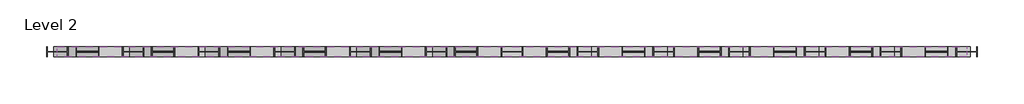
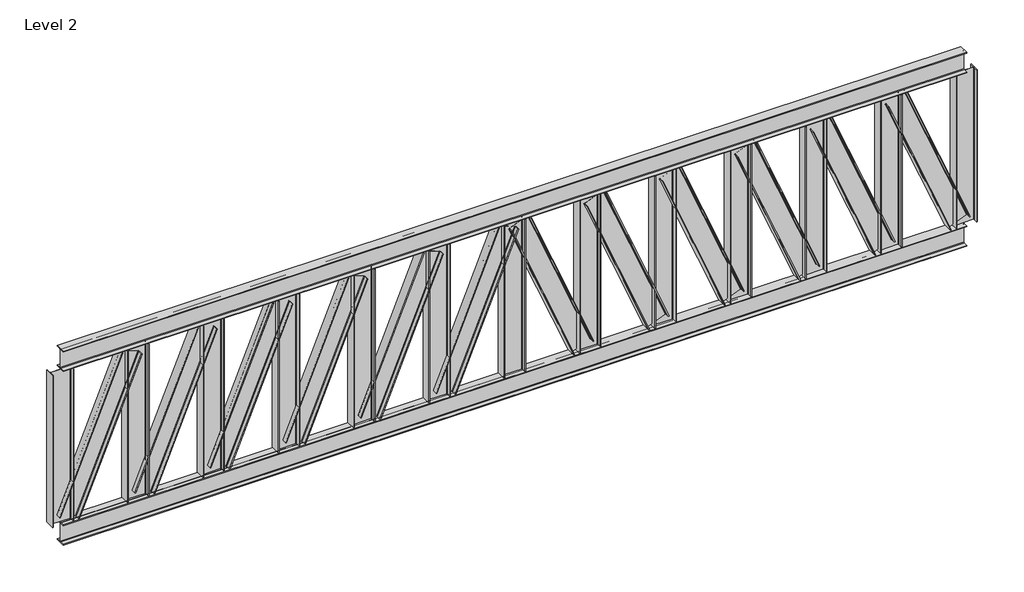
# One storey: 27 beams.
"""IFC4 building model written with IfcOpenShell, lengths in millimetres."""

from ifc_helpers import new_model, si_unit, origin, place, context, project, spatial, transform, mapped, element, save
from components import ub_universal_beams_ub356x171x51_882d7a9f, ub_universal_beams_ub356x171x51_1120833c, ub_universal_beams_ub356x171x51_ab9f3c69

model = new_model("IFC4")

# Units and contexts
model_context = context("Model", 3, world=origin())
ifc_project = project(units=[si_unit("LENGTHUNIT", "METRE", prefix="MILLI")], contexts=[model_context])

# Site, building, storey
site = spatial("IfcSite", under=ifc_project)
building = spatial("IfcBuilding", under=site)
storey = spatial("IfcBuildingStorey", under=building, Name="Level 2", Elevation=3000.0)

# Beams
placement = place(None, origin())
ub_universal_beams_ub356x171x51_shape = ub_universal_beams_ub356x171x51_882d7a9f(model_context)
element("IfcBeam", 1, ObjectType="UB-Universal Beams : UB356x171x51", at=placement, inside=storey, context=model_context, shape_type="MappedRepresentation", body=[
    mapped(ub_universal_beams_ub356x171x51_shape, transform((-368.8561291, 106.2542074, 3000.0), x_axis=(-1.0, 0.0, 0.0), y_axis=(0.0, -1.0, 0.0), z_axis=(0.0, 0.0, 1.0))),
])
element("IfcBeam", 2, ObjectType="UB-Universal Beams : UB356x171x51", at=placement, inside=storey, context=model_context, shape_type="MappedRepresentation", body=[
    mapped(ub_universal_beams_ub356x171x51_shape, transform((-368.8561291, 106.2542074, 6048.0), x_axis=(-1.0, 0.0, 0.0), y_axis=(0.0, -1.0, 0.0), z_axis=(0.0, 0.0, 1.0))),
])
ub_universal_beams_ub356x171x51_2_shape = ub_universal_beams_ub356x171x51_1120833c(model_context)
element("IfcBeam", 3, ObjectType="UB-Universal Beams : UB356x171x51", at=placement, inside=storey, context=model_context, shape_type="MappedRepresentation", body=[
    mapped(ub_universal_beams_ub356x171x51_2_shape, transform((-6618.8561291, 106.2542074, 4524.0), x_axis=(0.0, 0.0, 1.0000000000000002), y_axis=(0.0, 1.0000000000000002, 0.0), z_axis=(-1.0000000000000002, 0.0, 0.0))),
])
element("IfcBeam", 4, ObjectType="UB-Universal Beams : UB356x171x51", at=placement, inside=storey, context=model_context, shape_type="MappedRepresentation", body=[
    mapped(ub_universal_beams_ub356x171x51_2_shape, transform((5881.1438709, 106.2542074, 4524.0), x_axis=(0.0, 0.0, 1.0000000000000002), y_axis=(0.0, 1.0000000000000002, 0.0), z_axis=(-1.0000000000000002, 0.0, 0.0))),
])
element("IfcBeam", 5, ObjectType="UB-Universal Beams : UB356x171x51", at=placement, inside=storey, context=model_context, shape_type="MappedRepresentation", body=[
    mapped(ub_universal_beams_ub356x171x51_2_shape, transform((-5368.8561291, 106.2542074, 4524.0), x_axis=(0.0, 0.0, 1.0000000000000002), y_axis=(0.0, 1.0000000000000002, 0.0), z_axis=(-1.0000000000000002, 0.0, 0.0))),
])
element("IfcBeam", 6, ObjectType="UB-Universal Beams : UB356x171x51", at=placement, inside=storey, context=model_context, shape_type="MappedRepresentation", body=[
    mapped(ub_universal_beams_ub356x171x51_2_shape, transform((4631.1438709, 106.2542074, 4524.0), x_axis=(0.0, 0.0, 1.0000000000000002), y_axis=(0.0, 1.0000000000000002, 0.0), z_axis=(-1.0000000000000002, 0.0, 0.0))),
])
element("IfcBeam", 7, ObjectType="UB-Universal Beams : UB356x171x51", at=placement, inside=storey, context=model_context, shape_type="MappedRepresentation", body=[
    mapped(ub_universal_beams_ub356x171x51_2_shape, transform((-4118.8561291, 106.2542074, 4524.0), x_axis=(0.0, 0.0, 1.0000000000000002), y_axis=(0.0, 1.0000000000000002, 0.0), z_axis=(-1.0000000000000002, 0.0, 0.0))),
])
element("IfcBeam", 8, ObjectType="UB-Universal Beams : UB356x171x51", at=placement, inside=storey, context=model_context, shape_type="MappedRepresentation", body=[
    mapped(ub_universal_beams_ub356x171x51_2_shape, transform((-2868.8561291, 106.2542074, 4524.0), x_axis=(0.0, 0.0, 1.0000000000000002), y_axis=(0.0, 1.0000000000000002, 0.0), z_axis=(-1.0000000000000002, 0.0, 0.0))),
])
element("IfcBeam", 9, ObjectType="UB-Universal Beams : UB356x171x51", at=placement, inside=storey, context=model_context, shape_type="MappedRepresentation", body=[
    mapped(ub_universal_beams_ub356x171x51_2_shape, transform((-7868.8561291, 106.2542074, 4524.0), x_axis=(0.0, 0.0, 1.0000000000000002), y_axis=(0.0, 1.0000000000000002, 0.0), z_axis=(-1.0000000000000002, 0.0, 0.0))),
])
element("IfcBeam", 10, ObjectType="UB-Universal Beams : UB356x171x51", at=placement, inside=storey, context=model_context, shape_type="MappedRepresentation", body=[
    mapped(ub_universal_beams_ub356x171x51_2_shape, transform((-1618.8561291, 106.2542074, 4524.0), x_axis=(0.0, 0.0, 1.0000000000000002), y_axis=(0.0, 1.0000000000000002, 0.0), z_axis=(-1.0000000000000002, 0.0, 0.0))),
])
element("IfcBeam", 11, ObjectType="UB-Universal Beams : UB356x171x51", at=placement, inside=storey, context=model_context, shape_type="MappedRepresentation", body=[
    mapped(ub_universal_beams_ub356x171x51_2_shape, transform((3381.1438709, 106.2542074, 4524.0), x_axis=(0.0, 0.0, 1.0000000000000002), y_axis=(0.0, 1.0000000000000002, 0.0), z_axis=(-1.0000000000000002, 0.0, 0.0))),
])
element("IfcBeam", 12, ObjectType="UB-Universal Beams : UB356x171x51", at=placement, inside=storey, context=model_context, shape_type="MappedRepresentation", body=[
    mapped(ub_universal_beams_ub356x171x51_2_shape, transform((2131.1438709, 106.2542074, 4524.0), x_axis=(0.0, 0.0, 1.0000000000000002), y_axis=(0.0, 1.0000000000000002, 0.0), z_axis=(-1.0000000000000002, 0.0, 0.0))),
])
element("IfcBeam", 13, ObjectType="UB-Universal Beams : UB356x171x51", at=placement, inside=storey, context=model_context, shape_type="MappedRepresentation", body=[
    mapped(ub_universal_beams_ub356x171x51_2_shape, transform((7131.1438709, 106.2542074, 4524.0), x_axis=(0.0, 0.0, 1.0000000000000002), y_axis=(0.0, 1.0000000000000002, 0.0), z_axis=(-1.0000000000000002, 0.0, 0.0))),
])
element("IfcBeam", 14, ObjectType="UB-Universal Beams : UB356x171x51", at=placement, inside=storey, context=model_context, shape_type="MappedRepresentation", body=[
    mapped(ub_universal_beams_ub356x171x51_2_shape, transform((881.1438709, 106.2542074, 4524.0), x_axis=(0.0, 0.0, 1.0000000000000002), y_axis=(0.0, 1.0000000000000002, 0.0), z_axis=(-1.0000000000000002, 0.0, 0.0))),
])
element("IfcBeam", 15, ObjectType="UB-Universal Beams : UB356x171x51", at=placement, inside=storey, context=model_context, shape_type="MappedRepresentation", body=[
    mapped(ub_universal_beams_ub356x171x51_2_shape, transform((-368.8561291, 106.2542074, 4524.0), x_axis=(0.0, 0.0, 1.0000000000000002), y_axis=(0.0, 1.0000000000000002, 0.0), z_axis=(-1.0000000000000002, 0.0, 0.0))),
])
ub_universal_beams_ub356x171x51_3_shape = ub_universal_beams_ub356x171x51_ab9f3c69(model_context)
element("IfcBeam", 16, ObjectType="UB-Universal Beams : UB356x171x51", at=placement, inside=storey, context=model_context, shape_type="MappedRepresentation", body=[
    mapped(ub_universal_beams_ub356x171x51_3_shape, transform((-5993.8561291, 106.2542074, 4524.0), x_axis=(-0.37943643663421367, 0.0, -0.9252178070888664), y_axis=(0.0, 1.0000000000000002, 0.0), z_axis=(0.9252178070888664, 0.0, -0.37943643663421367))),
])
element("IfcBeam", 17, ObjectType="UB-Universal Beams : UB356x171x51", at=placement, inside=storey, context=model_context, shape_type="MappedRepresentation", body=[
    mapped(ub_universal_beams_ub356x171x51_3_shape, transform((5256.1438709, 106.2542074, 4524.0), x_axis=(-0.3794364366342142, 0.0, 0.9252178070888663), y_axis=(0.0, 1.0000000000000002, 0.0), z_axis=(-0.9252178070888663, 0.0, -0.3794364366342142))),
])
element("IfcBeam", 18, ObjectType="UB-Universal Beams : UB356x171x51", at=placement, inside=storey, context=model_context, shape_type="MappedRepresentation", body=[
    mapped(ub_universal_beams_ub356x171x51_3_shape, transform((-4743.8561291, 106.2542074, 4524.0), x_axis=(-0.3794364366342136, 0.0, -0.9252178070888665), y_axis=(0.0, 1.0000000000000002, 0.0), z_axis=(0.9252178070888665, 0.0, -0.3794364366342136))),
])
element("IfcBeam", 19, ObjectType="UB-Universal Beams : UB356x171x51", at=placement, inside=storey, context=model_context, shape_type="MappedRepresentation", body=[
    mapped(ub_universal_beams_ub356x171x51_3_shape, transform((4006.1438709, 106.2542074, 4524.0), x_axis=(-0.3794364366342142, 0.0, 0.9252178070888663), y_axis=(0.0, 1.0000000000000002, 0.0), z_axis=(-0.9252178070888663, 0.0, -0.3794364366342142))),
])
element("IfcBeam", 20, ObjectType="UB-Universal Beams : UB356x171x51", at=placement, inside=storey, context=model_context, shape_type="MappedRepresentation", body=[
    mapped(ub_universal_beams_ub356x171x51_3_shape, transform((-3493.8561291, 106.2542074, 4524.0), x_axis=(-0.3794364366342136, 0.0, -0.9252178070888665), y_axis=(0.0, 1.0000000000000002, 0.0), z_axis=(0.9252178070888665, 0.0, -0.3794364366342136))),
])
element("IfcBeam", 21, ObjectType="UB-Universal Beams : UB356x171x51", at=placement, inside=storey, context=model_context, shape_type="MappedRepresentation", body=[
    mapped(ub_universal_beams_ub356x171x51_3_shape, transform((-2243.8561291, 106.2542074, 4524.0), x_axis=(-0.37943643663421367, 0.0, -0.9252178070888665), y_axis=(0.0, 1.0000000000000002, 0.0), z_axis=(0.9252178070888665, 0.0, -0.37943643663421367))),
])
element("IfcBeam", 22, ObjectType="UB-Universal Beams : UB356x171x51", at=placement, inside=storey, context=model_context, shape_type="MappedRepresentation", body=[
    mapped(ub_universal_beams_ub356x171x51_3_shape, transform((-7243.8561291, 106.2542074, 4524.0), x_axis=(-0.37943643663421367, 0.0, -0.9252178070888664), y_axis=(0.0, 1.0000000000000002, 0.0), z_axis=(0.9252178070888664, 0.0, -0.37943643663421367))),
])
element("IfcBeam", 23, ObjectType="UB-Universal Beams : UB356x171x51", at=placement, inside=storey, context=model_context, shape_type="MappedRepresentation", body=[
    mapped(ub_universal_beams_ub356x171x51_3_shape, transform((-993.8561291, 106.2542074, 4524.0), x_axis=(-0.37943643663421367, 0.0, -0.9252178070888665), y_axis=(0.0, 1.0000000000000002, 0.0), z_axis=(0.9252178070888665, 0.0, -0.37943643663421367))),
])
element("IfcBeam", 24, ObjectType="UB-Universal Beams : UB356x171x51", at=placement, inside=storey, context=model_context, shape_type="MappedRepresentation", body=[
    mapped(ub_universal_beams_ub356x171x51_3_shape, transform((2756.1438709, 106.2542074, 4524.0), x_axis=(-0.37943643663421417, 0.0, 0.9252178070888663), y_axis=(0.0, 1.0000000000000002, 0.0), z_axis=(-0.9252178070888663, 0.0, -0.37943643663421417))),
])
element("IfcBeam", 25, ObjectType="UB-Universal Beams : UB356x171x51", at=placement, inside=storey, context=model_context, shape_type="MappedRepresentation", body=[
    mapped(ub_universal_beams_ub356x171x51_3_shape, transform((1506.1438709, 106.2542074, 4524.0), x_axis=(-0.3794364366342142, 0.0, 0.9252178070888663), y_axis=(0.0, 1.0000000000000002, 0.0), z_axis=(-0.9252178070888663, 0.0, -0.3794364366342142))),
])
element("IfcBeam", 26, ObjectType="UB-Universal Beams : UB356x171x51", at=placement, inside=storey, context=model_context, shape_type="MappedRepresentation", body=[
    mapped(ub_universal_beams_ub356x171x51_3_shape, transform((6506.1438709, 106.2542074, 4524.0), x_axis=(-0.379436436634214, 0.0, 0.9252178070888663), y_axis=(0.0, 1.0000000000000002, 0.0), z_axis=(-0.9252178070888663, 0.0, -0.379436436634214))),
])
element("IfcBeam", 27, ObjectType="UB-Universal Beams : UB356x171x51", at=placement, inside=storey, context=model_context, shape_type="MappedRepresentation", body=[
    mapped(ub_universal_beams_ub356x171x51_3_shape, transform((256.1438709, 106.2542074, 4524.0), x_axis=(-0.3794364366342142, 0.0, 0.9252178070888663), y_axis=(0.0, 1.0000000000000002, 0.0), z_axis=(-0.9252178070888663, 0.0, -0.3794364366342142))),
])

save(model, "model.ifc")
